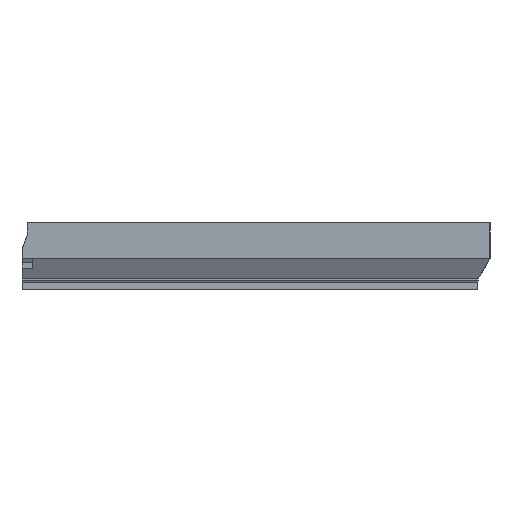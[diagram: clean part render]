
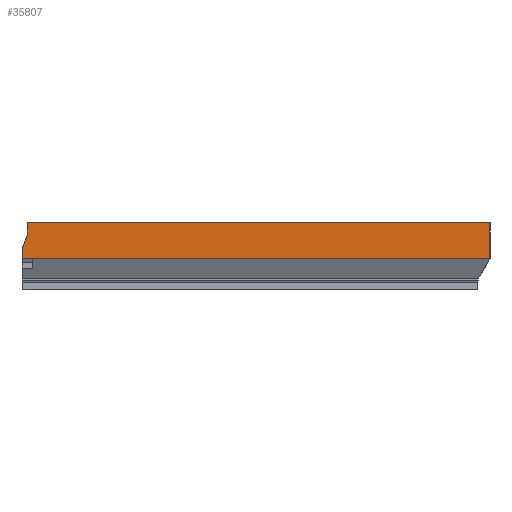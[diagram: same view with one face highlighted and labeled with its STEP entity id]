
A CAD part, left-side view. The second image highlights one B-rep face of the part: STEP entity #35807.
In plain terms, the highlighted planar face has unit normal (-1, 0, 0).
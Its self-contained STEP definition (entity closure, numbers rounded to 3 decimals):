
#3299 = PLANE('',#3300);
#3300 = AXIS2_PLACEMENT_3D('',#3301,#3302,#3303);
#3301 = CARTESIAN_POINT('',(0.,-3.198,26.));
#3302 = DIRECTION('',(0.,0.,1.));
#3303 = DIRECTION('',(1.,0.,-0.));
#16801 = VERTEX_POINT('',#16802);
#16802 = CARTESIAN_POINT('',(-196.5,-2.1,26.));
#16815 = PLANE('',#16816);
#16816 = AXIS2_PLACEMENT_3D('',#16817,#16818,#16819);
#16817 = CARTESIAN_POINT('',(-195.6,-2.1,38.));
#16818 = DIRECTION('',(0.,1.,-0.));
#16819 = DIRECTION('',(-1.,0.,0.));
#16826 = EDGE_CURVE('',#16801,#16827,#16829,.T.);
#16827 = VERTEX_POINT('',#16828);
#16828 = CARTESIAN_POINT('',(-196.5,-180.5,26.));
#16829 = SURFACE_CURVE('',#16830,(#16834,#16841),.PCURVE_S1.);
#16830 = LINE('',#16831,#16832);
#16831 = CARTESIAN_POINT('',(-196.5,152.,26.));
#16832 = VECTOR('',#16833,1.);
#16833 = DIRECTION('',(0.,-1.,0.));
#16834 = PCURVE('',#3299,#16835);
#16835 = DEFINITIONAL_REPRESENTATION('',(#16836),#16840);
#16836 = LINE('',#16837,#16838);
#16837 = CARTESIAN_POINT('',(-196.5,155.198));
#16838 = VECTOR('',#16839,1.);
#16839 = DIRECTION('',(0.,-1.));
#16840 = ( GEOMETRIC_REPRESENTATION_CONTEXT(2) 
PARAMETRIC_REPRESENTATION_CONTEXT() REPRESENTATION_CONTEXT('2D SPACE',''
  ) );
#16841 = PCURVE('',#16842,#16847);
#16842 = PLANE('',#16843);
#16843 = AXIS2_PLACEMENT_3D('',#16844,#16845,#16846);
#16844 = CARTESIAN_POINT('',(-196.5,152.,12.));
#16845 = DIRECTION('',(1.,0.,-0.));
#16846 = DIRECTION('',(0.,-1.,0.));
#16847 = DEFINITIONAL_REPRESENTATION('',(#16848),#16852);
#16848 = LINE('',#16849,#16850);
#16849 = CARTESIAN_POINT('',(0.,-14.));
#16850 = VECTOR('',#16851,1.);
#16851 = DIRECTION('',(1.,0.));
#16852 = ( GEOMETRIC_REPRESENTATION_CONTEXT(2) 
PARAMETRIC_REPRESENTATION_CONTEXT() REPRESENTATION_CONTEXT('2D SPACE',''
  ) );
#16870 = PLANE('',#16871);
#16871 = AXIS2_PLACEMENT_3D('',#16872,#16873,#16874);
#16872 = CARTESIAN_POINT('',(-196.5,-180.5,12.));
#16873 = DIRECTION('',(0.,1.,0.));
#16874 = DIRECTION('',(1.,0.,0.));
#17071 = B_SPLINE_SURFACE_WITH_KNOTS('',1,1,(
    (#17072,#17073)
    ,(#17074,#17075
    )),.UNSPECIFIED.,.F.,.F.,.F.,(2,2),(2,2),(0.,332.5),(0.,1.),
  .PIECEWISE_BEZIER_KNOTS.);
#17072 = CARTESIAN_POINT('',(-192.,152.,4.2));
#17073 = CARTESIAN_POINT('',(-196.5,152.,12.));
#17074 = CARTESIAN_POINT('',(-192.,-176.,4.2));
#17075 = CARTESIAN_POINT('',(-196.5,-180.5,12.));
#35138 = VERTEX_POINT('',#35139);
#35139 = CARTESIAN_POINT('',(-196.5,-180.5,12.));
#35412 = VERTEX_POINT('',#35413);
#35413 = CARTESIAN_POINT('',(-196.5,-2.1,21.));
#35427 = PLANE('',#35428);
#35428 = AXIS2_PLACEMENT_3D('',#35429,#35430,#35431);
#35429 = CARTESIAN_POINT('',(-195.6,-2.1,21.));
#35430 = DIRECTION('',(0.,0.94,0.342));
#35431 = DIRECTION('',(-1.,0.,0.));
#35439 = EDGE_CURVE('',#35412,#16801,#35440,.T.);
#35440 = SURFACE_CURVE('',#35441,(#35445,#35451),.PCURVE_S1.);
#35441 = LINE('',#35442,#35443);
#35442 = CARTESIAN_POINT('',(-196.5,-2.1,25.));
#35443 = VECTOR('',#35444,1.);
#35444 = DIRECTION('',(0.,0.,1.));
#35445 = PCURVE('',#16815,#35446);
#35446 = DEFINITIONAL_REPRESENTATION('',(#35447),#35450);
#35447 = B_SPLINE_CURVE_WITH_KNOTS('',1,(#35448,#35449),.UNSPECIFIED.,
  .F.,.F.,(2,2),(-4.,1.),.PIECEWISE_BEZIER_KNOTS.);
#35448 = CARTESIAN_POINT('',(0.9,-17.));
#35449 = CARTESIAN_POINT('',(0.9,-12.));
#35450 = ( GEOMETRIC_REPRESENTATION_CONTEXT(2) 
PARAMETRIC_REPRESENTATION_CONTEXT() REPRESENTATION_CONTEXT('2D SPACE',''
  ) );
#35451 = PCURVE('',#16842,#35452);
#35452 = DEFINITIONAL_REPRESENTATION('',(#35453),#35456);
#35453 = B_SPLINE_CURVE_WITH_KNOTS('',1,(#35454,#35455),.UNSPECIFIED.,
  .F.,.F.,(2,2),(-4.,1.),.PIECEWISE_BEZIER_KNOTS.);
#35454 = CARTESIAN_POINT('',(154.1,-9.));
#35455 = CARTESIAN_POINT('',(154.1,-14.));
#35456 = ( GEOMETRIC_REPRESENTATION_CONTEXT(2) 
PARAMETRIC_REPRESENTATION_CONTEXT() REPRESENTATION_CONTEXT('2D SPACE',''
  ) );
#35523 = PLANE('',#35524);
#35524 = AXIS2_PLACEMENT_3D('',#35525,#35526,#35527);
#35525 = CARTESIAN_POINT('',(-195.6,-0.1,8.));
#35526 = DIRECTION('',(0.,1.,-0.));
#35527 = DIRECTION('',(-1.,0.,0.));
#35744 = EDGE_CURVE('',#16827,#35138,#35745,.T.);
#35745 = SURFACE_CURVE('',#35746,(#35750,#35757),.PCURVE_S1.);
#35746 = LINE('',#35747,#35748);
#35747 = CARTESIAN_POINT('',(-196.5,-180.5,26.));
#35748 = VECTOR('',#35749,1.);
#35749 = DIRECTION('',(0.,0.,-1.));
#35750 = PCURVE('',#16870,#35751);
#35751 = DEFINITIONAL_REPRESENTATION('',(#35752),#35756);
#35752 = LINE('',#35753,#35754);
#35753 = CARTESIAN_POINT('',(0.,-14.));
#35754 = VECTOR('',#35755,1.);
#35755 = DIRECTION('',(0.,1.));
#35756 = ( GEOMETRIC_REPRESENTATION_CONTEXT(2) 
PARAMETRIC_REPRESENTATION_CONTEXT() REPRESENTATION_CONTEXT('2D SPACE',''
  ) );
#35757 = PCURVE('',#16842,#35758);
#35758 = DEFINITIONAL_REPRESENTATION('',(#35759),#35763);
#35759 = LINE('',#35760,#35761);
#35760 = CARTESIAN_POINT('',(332.5,-14.));
#35761 = VECTOR('',#35762,1.);
#35762 = DIRECTION('',(0.,1.));
#35763 = ( GEOMETRIC_REPRESENTATION_CONTEXT(2) 
PARAMETRIC_REPRESENTATION_CONTEXT() REPRESENTATION_CONTEXT('2D SPACE',''
  ) );
#35807 = ADVANCED_FACE('',(#35808),#16842,.F.);
#35808 = FACE_BOUND('',#35809,.F.);
#35809 = EDGE_LOOP('',(#35810,#35811,#35812,#35813,#35836,#35857));
#35810 = ORIENTED_EDGE('',*,*,#35439,.T.);
#35811 = ORIENTED_EDGE('',*,*,#16826,.T.);
#35812 = ORIENTED_EDGE('',*,*,#35744,.T.);
#35813 = ORIENTED_EDGE('',*,*,#35814,.F.);
#35814 = EDGE_CURVE('',#35815,#35138,#35817,.T.);
#35815 = VERTEX_POINT('',#35816);
#35816 = CARTESIAN_POINT('',(-196.5,-0.1,12.));
#35817 = SURFACE_CURVE('',#35818,(#35822,#35829),.PCURVE_S1.);
#35818 = LINE('',#35819,#35820);
#35819 = CARTESIAN_POINT('',(-196.5,152.,12.));
#35820 = VECTOR('',#35821,1.);
#35821 = DIRECTION('',(0.,-1.,0.));
#35822 = PCURVE('',#16842,#35823);
#35823 = DEFINITIONAL_REPRESENTATION('',(#35824),#35828);
#35824 = LINE('',#35825,#35826);
#35825 = CARTESIAN_POINT('',(0.,0.));
#35826 = VECTOR('',#35827,1.);
#35827 = DIRECTION('',(1.,0.));
#35828 = ( GEOMETRIC_REPRESENTATION_CONTEXT(2) 
PARAMETRIC_REPRESENTATION_CONTEXT() REPRESENTATION_CONTEXT('2D SPACE',''
  ) );
#35829 = PCURVE('',#17071,#35830);
#35830 = DEFINITIONAL_REPRESENTATION('',(#35831),#35835);
#35831 = LINE('',#35832,#35833);
#35832 = CARTESIAN_POINT('',(0.,1.));
#35833 = VECTOR('',#35834,1.);
#35834 = DIRECTION('',(1.,0.));
#35835 = ( GEOMETRIC_REPRESENTATION_CONTEXT(2) 
PARAMETRIC_REPRESENTATION_CONTEXT() REPRESENTATION_CONTEXT('2D SPACE',''
  ) );
#35836 = ORIENTED_EDGE('',*,*,#35837,.T.);
#35837 = EDGE_CURVE('',#35815,#35838,#35840,.T.);
#35838 = VERTEX_POINT('',#35839);
#35839 = CARTESIAN_POINT('',(-196.5,-0.1,15.5));
#35840 = SURFACE_CURVE('',#35841,(#35845,#35851),.PCURVE_S1.);
#35841 = LINE('',#35842,#35843);
#35842 = CARTESIAN_POINT('',(-196.5,-0.1,10.));
#35843 = VECTOR('',#35844,1.);
#35844 = DIRECTION('',(0.,0.,1.));
#35845 = PCURVE('',#16842,#35846);
#35846 = DEFINITIONAL_REPRESENTATION('',(#35847),#35850);
#35847 = B_SPLINE_CURVE_WITH_KNOTS('',1,(#35848,#35849),.UNSPECIFIED.,
  .F.,.F.,(2,2),(2.,5.5),.PIECEWISE_BEZIER_KNOTS.);
#35848 = CARTESIAN_POINT('',(152.1,0.));
#35849 = CARTESIAN_POINT('',(152.1,-3.5));
#35850 = ( GEOMETRIC_REPRESENTATION_CONTEXT(2) 
PARAMETRIC_REPRESENTATION_CONTEXT() REPRESENTATION_CONTEXT('2D SPACE',''
  ) );
#35851 = PCURVE('',#35523,#35852);
#35852 = DEFINITIONAL_REPRESENTATION('',(#35853),#35856);
#35853 = B_SPLINE_CURVE_WITH_KNOTS('',1,(#35854,#35855),.UNSPECIFIED.,
  .F.,.F.,(2,2),(2.,5.5),.PIECEWISE_BEZIER_KNOTS.);
#35854 = CARTESIAN_POINT('',(0.9,4.));
#35855 = CARTESIAN_POINT('',(0.9,7.5));
#35856 = ( GEOMETRIC_REPRESENTATION_CONTEXT(2) 
PARAMETRIC_REPRESENTATION_CONTEXT() REPRESENTATION_CONTEXT('2D SPACE',''
  ) );
#35857 = ORIENTED_EDGE('',*,*,#35858,.T.);
#35858 = EDGE_CURVE('',#35838,#35412,#35859,.T.);
#35859 = SURFACE_CURVE('',#35860,(#35864,#35870),.PCURVE_S1.);
#35860 = LINE('',#35861,#35862);
#35861 = CARTESIAN_POINT('',(-196.5,8.344,-7.72));
#35862 = VECTOR('',#35863,1.);
#35863 = DIRECTION('',(0.,-0.342,0.94));
#35864 = PCURVE('',#16842,#35865);
#35865 = DEFINITIONAL_REPRESENTATION('',(#35866),#35869);
#35866 = B_SPLINE_CURVE_WITH_KNOTS('',1,(#35867,#35868),.UNSPECIFIED.,
  .F.,.F.,(2,2),(24.708,30.56),
  .PIECEWISE_BEZIER_KNOTS.);
#35867 = CARTESIAN_POINT('',(152.1,-3.5));
#35868 = CARTESIAN_POINT('',(154.1,-9.));
#35869 = ( GEOMETRIC_REPRESENTATION_CONTEXT(2) 
PARAMETRIC_REPRESENTATION_CONTEXT() REPRESENTATION_CONTEXT('2D SPACE',''
  ) );
#35870 = PCURVE('',#35427,#35871);
#35871 = DEFINITIONAL_REPRESENTATION('',(#35872),#35875);
#35872 = B_SPLINE_CURVE_WITH_KNOTS('',1,(#35873,#35874),.UNSPECIFIED.,
  .F.,.F.,(2,2),(24.708,30.56),
  .PIECEWISE_BEZIER_KNOTS.);
#35873 = CARTESIAN_POINT('',(0.9,-5.852));
#35874 = CARTESIAN_POINT('',(0.9,0.));
#35875 = ( GEOMETRIC_REPRESENTATION_CONTEXT(2) 
PARAMETRIC_REPRESENTATION_CONTEXT() REPRESENTATION_CONTEXT('2D SPACE',''
  ) );
